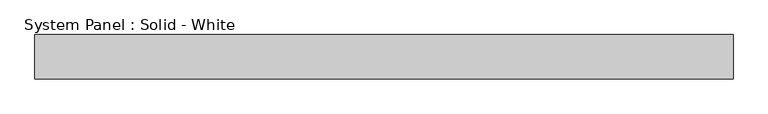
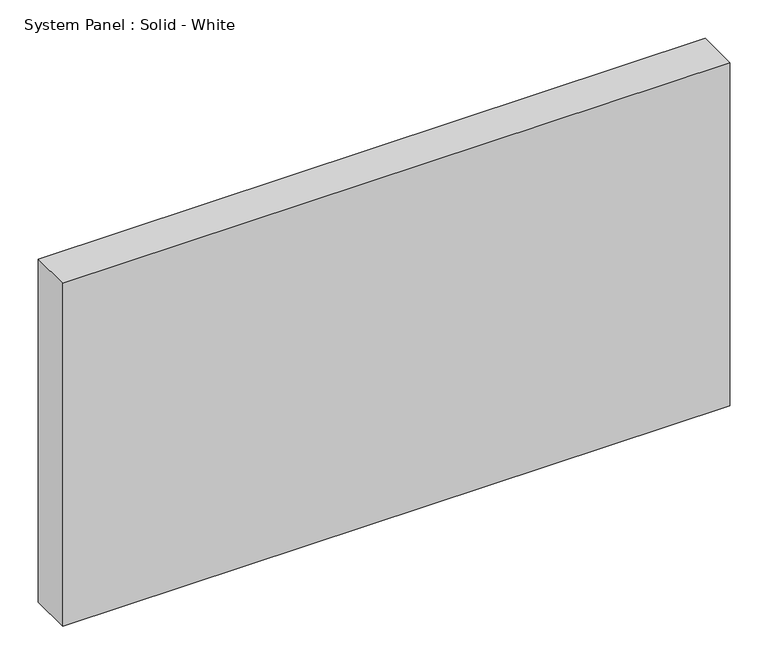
"""IFC4 building model written with IfcOpenShell, lengths in millimetres: plate geometry, System Panel : Solid - White."""

import ifcopenshell
import ifcopenshell.guid

model = None  # the IFC model being written
_history = None  # IfcOwnerHistory: only IFC2X3 demands one
_inside = {}  # id of a spatial element -> (the spatial element, [elements in it])
_under = {}  # id of a project, library or spatial element -> (it, [spatial elements below it])
_declared = {}  # id of a project -> (the project, [libraries it declares])
_typed = {}  # id of a type object -> (the type object, [elements of that type])
_made_of = {}  # id of a material, layer set ... -> (it, [elements and type objects made of it])


def new_model(schema):
    """Start an empty IFC model of exactly this schema.

    Asked for "IFC4X3", IfcOpenShell would pick the latest addendum, in which some entities
    have other attributes; the version numbers below select the first issue.
    IFC2X3 requires an IfcOwnerHistory on every rooted entity: one is made here for all.
    """
    global model, _history
    if schema == "IFC4X3":
        model = ifcopenshell.file(schema_version=(4, 3, 0, 0))
    else:
        model = ifcopenshell.file(schema=schema)
    _inside.clear()
    _under.clear()
    _declared.clear()
    _typed.clear()
    _made_of.clear()
    _history = None
    if model.schema == "IFC2X3":
        org = make("IfcOrganization", Name="unknown")
        user = make(
            "IfcPersonAndOrganization",
            ThePerson=make("IfcPerson", FamilyName="unknown"),
            TheOrganization=org,
        )
        app = make(
            "IfcApplication",
            ApplicationDeveloper=org,
            Version="unknown",
            ApplicationFullName="unknown",
            ApplicationIdentifier="unknown",
        )
        _history = make(
            "IfcOwnerHistory",
            OwningUser=user,
            OwningApplication=app,
            ChangeAction="ADDED",
            CreationDate=0,
        )
    return model


def make(cls, **values):
    """One entity of the class cls with the attributes given. An attribute that is None is left unset."""
    return model.create_entity(
        cls, **{name: value for name, value in values.items() if value is not None}
    )


def rooted(cls, **values):
    """An entity with a GlobalId (a new one), such as an element, a storey or a relation."""
    return make(cls, GlobalId=ifcopenshell.guid.new(), OwnerHistory=_history, **values)


def si_unit(unit_type, name, prefix=None):
    """IfcSIUnit, for example si_unit("LENGTHUNIT", "METRE", prefix="MILLI")."""
    return make("IfcSIUnit", UnitType=unit_type, Prefix=prefix, Name=name)


def assignment(units):
    """IfcUnitAssignment: the units of a project."""
    return None if units is None else make("IfcUnitAssignment", Units=units)


def point(xyz):
    """IfcCartesianPoint."""
    return None if xyz is None else make("IfcCartesianPoint", Coordinates=xyz)


def direction(xyz):
    """IfcDirection."""
    return None if xyz is None else make("IfcDirection", DirectionRatios=xyz)


def frame(location, z_axis=None, x_axis=None):
    """IfcAxis2Placement3D, a coordinate frame: its origin and axes. An axis left out is left unset."""
    return make(
        "IfcAxis2Placement3D",
        Location=point(location),
        Axis=direction(z_axis),
        RefDirection=direction(x_axis),
    )


def origin():
    """The frame at (0, 0, 0) with its axes left unset."""
    return frame((0.0, 0.0, 0.0))


def origin_with_axes():
    """The frame at (0, 0, 0) with the z axis (0, 0, 1) and the x axis (1, 0, 0) written out."""
    return frame((0.0, 0.0, 0.0), z_axis=(0.0, 0.0, 1.0), x_axis=(1.0, 0.0, 0.0))


def place(relative_to, where):
    """IfcLocalPlacement: puts the frame where relative to a parent placement (None: the world)."""
    return make(
        "IfcLocalPlacement", PlacementRelTo=relative_to, RelativePlacement=where
    )


def context(
    kind, dimensions, precision=None, world=None, true_north=None, identifier=None
):
    """IfcGeometricRepresentationContext, for example the 3D "Model" context."""
    return make(
        "IfcGeometricRepresentationContext",
        ContextIdentifier=identifier,
        ContextType=kind,
        CoordinateSpaceDimension=dimensions,
        Precision=precision,
        WorldCoordinateSystem=world,
        TrueNorth=true_north,
    )


def project(units=None, contexts=None):
    """IfcProject with its units and contexts."""
    return rooted(
        "IfcProject",
        Name="project",
        RepresentationContexts=contexts,
        UnitsInContext=assignment(units),
    )


def spatial(cls, under=None, at=None, **own):
    """A site, building, storey or space (cls), placed at a placement, below another one or the project."""
    s = rooted(cls, ObjectPlacement=at, **own)
    if under is not None:
        _under.setdefault(under.id(), (under, []))[1].append(s)
    return s


def polyline(points):
    """IfcPolyline through the points."""
    return make("IfcPolyline", Points=[point(p) for p in points])


def outline(outer, holes=None, kind="AREA"):
    """IfcArbitraryClosedProfileDef: a profile drawn as a closed curve; with holes, ...WithVoids."""
    if holes is None:
        return make("IfcArbitraryClosedProfileDef", ProfileType=kind, OuterCurve=outer)
    return make(
        "IfcArbitraryProfileDefWithVoids",
        ProfileType=kind,
        OuterCurve=outer,
        InnerCurves=holes,
    )


def extrude(swept, where, along, depth):
    """IfcExtrudedAreaSolid: the profile swept, set in the frame where, extruded along a direction by depth."""
    return make(
        "IfcExtrudedAreaSolid",
        SweptArea=swept,
        Position=where,
        ExtrudedDirection=direction(along),
        Depth=depth,
    )


def shape(context_of_items, identifier, shape_type, items):
    """IfcShapeRepresentation: the items that make up one representation, for example the "Body"."""
    return make(
        "IfcShapeRepresentation",
        ContextOfItems=context_of_items,
        RepresentationIdentifier=identifier,
        RepresentationType=shape_type,
        Items=items,
    )


def source(mapping_origin, context_of_items, identifier, shape_type, items):
    """IfcRepresentationMap: a shape defined once, which mapped items show again and again."""
    return make(
        "IfcRepresentationMap",
        MappingOrigin=mapping_origin,
        MappedRepresentation=shape(context_of_items, identifier, shape_type, items),
    )


def transform(
    local_origin,
    x_axis=None,
    y_axis=None,
    z_axis=None,
    scale=None,
    scale2=None,
    scale3=None,
    uniform=True,
):
    """IfcCartesianTransformationOperator3D, or its non-uniform kind. x_axis, y_axis, z_axis: its Axis1, 2, 3."""
    if uniform:
        return make(
            "IfcCartesianTransformationOperator3D",
            Axis1=direction(x_axis),
            Axis2=direction(y_axis),
            LocalOrigin=point(local_origin),
            Scale=scale,
            Axis3=direction(z_axis),
        )
    return make(
        "IfcCartesianTransformationOperator3DnonUniform",
        Axis1=direction(x_axis),
        Axis2=direction(y_axis),
        LocalOrigin=point(local_origin),
        Scale=scale,
        Axis3=direction(z_axis),
        Scale2=scale2,
        Scale3=scale3,
    )


def mapped(mapping_source, mapping_target):
    """IfcMappedItem: shows the shape of a source again, moved by a transform."""
    return make(
        "IfcMappedItem", MappingSource=mapping_source, MappingTarget=mapping_target
    )


def made_of(thing, what):
    """Note that an element or type object is made of a material, layer set ...; save() writes the relation."""
    if what is not None:
        _made_of.setdefault(what.id(), (what, []))[1].append(thing)
    return thing


def element(
    cls,
    number,
    at=None,
    inside=None,
    cuts=None,
    type_object=None,
    material=None,
    context=None,
    identifier="Body",
    shape_type=None,
    held_by="IfcProductDefinitionShape",
    body=None,
    shapes=None,
    **own,
):
    """One element of the class cls, such as IfcWall. Its Tag is "e" and its number.

    at: its placement. inside: the storey or other place that contains it. cuts: it is an
    opening in that element (IfcRelVoidsElement). A single representation is given by context,
    identifier, shape_type and body (its items); several are given by shapes. held_by: the class
    of the entity that holds the representations. save() writes the other relations.
    """
    e = rooted(cls, Tag="e%d" % number, ObjectPlacement=at, **own)
    if body is not None:
        shapes = [shape(context, identifier, shape_type, body)]
    if shapes is not None:
        e.Representation = make(held_by, Representations=shapes)
    if inside is not None:
        _inside.setdefault(inside.id(), (inside, []))[1].append(e)
    if cuts is not None:
        rooted(
            "IfcRelVoidsElement", RelatingBuildingElement=cuts, RelatedOpeningElement=e
        )
    if type_object is not None:
        _typed.setdefault(type_object.id(), (type_object, []))[1].append(e)
    return made_of(e, material)


def aggregate(whole, parts):
    """IfcRelAggregates: a whole, such as a stair, and the parts it consists of."""
    return rooted("IfcRelAggregates", RelatingObject=whole, RelatedObjects=parts)


def save(model, path):
    """Write the relations noted so far, then the file.

    IfcRelAggregates (storeys below a building ...), IfcRelContainedInSpatialStructure (elements
    in a storey), IfcRelDefinesByType, IfcRelAssociatesMaterial and IfcRelDeclares: one each for
    every whole, place, type object, material and project.
    """
    for whole, parts in _under.values():
        aggregate(whole, parts)
    for where, things in _inside.values():
        rooted(
            "IfcRelContainedInSpatialStructure",
            RelatedElements=things,
            RelatingStructure=where,
        )
    for kind, things in _typed.values():
        rooted("IfcRelDefinesByType", RelatedObjects=things, RelatingType=kind)
    for what, things in _made_of.values():
        rooted("IfcRelAssociatesMaterial", RelatedObjects=things, RelatingMaterial=what)
    for by, libraries in _declared.values():
        rooted("IfcRelDeclares", RelatingContext=by, RelatedDefinitions=libraries)
    model.write(path)


def system_panel_solid_white_7c94aa88(model_context):
    return source(origin(), model_context, "Body", "SweptSolid", [
        extrude(outline(polyline([(502.1791667, -19.05), (-502.1791667, -19.05), (-502.1791667, 44.45), (502.1791667, 44.45), (502.1791667, -19.05)])), origin_with_axes(), (0.0, 0.0, 1.0), 546.1),
    ])


if __name__ == "__main__":
    model = new_model("IFC4")
    model_context = context("Model", 3, world=origin())
    ifc_project = project(units=[si_unit("LENGTHUNIT", "METRE", prefix="MILLI")], contexts=[model_context])
    site = spatial("IfcSite", under=ifc_project)
    building = spatial("IfcBuilding", under=site)
    placement = place(None, origin())
    system_panel_solid_white_shape = system_panel_solid_white_7c94aa88(model_context)
    element("IfcPlate", 1, ObjectType="System Panel : Solid - White", at=placement, inside=building, context=model_context, shape_type="MappedRepresentation", body=[
        mapped(system_panel_solid_white_shape, transform((0.0, 0.0, 0.0), x_axis=(1.0, 0.0, 0.0), y_axis=(0.0, 1.0, 0.0), z_axis=(0.0, 0.0, 1.0))),
    ])
    save(model, "model.ifc")
